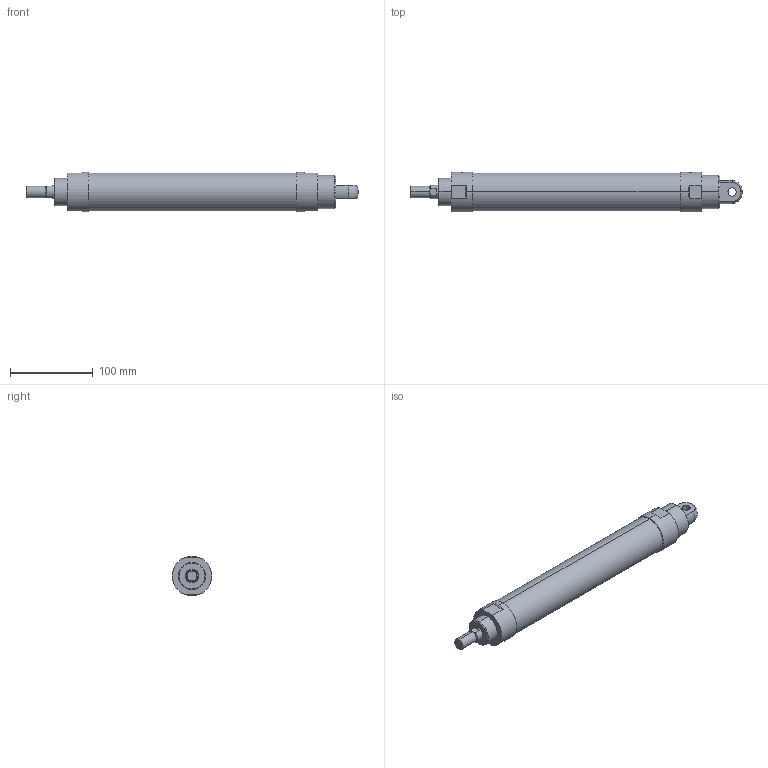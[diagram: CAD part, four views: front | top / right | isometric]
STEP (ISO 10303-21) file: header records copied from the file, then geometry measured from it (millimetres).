
FILE_DESCRIPTION (( 'STEP AP203' ), '1' );
FILE_NAME ('J#2-40-200-C.STEP', '2016-03-08T08:04:10', ( '' ), ( '' ), 'SwSTEP 2.0', 'SolidWorks 2014', '' );
FILE_SCHEMA (( 'CONFIG_CONTROL_DESIGN' ));
Length unit declared in the file: millimetre
Products named in the file (1): J#2-40-200-C
Bounding box: 402 x 48 x 48 mm (x, y, z)
Volume: 563168.9 mm3; surface area: 57147.8 mm2
Topology: 1 solids, 1 shells, 59 faces, 138 edges, 85 vertices
Faces by surface type: cylinder 22, plane 20, cone 15, torus 2
Entity records: 1988 total; most frequent: CARTESIAN_POINT 566, DIRECTION 293, ORIENTED_EDGE 268, EDGE_CURVE 134, AXIS2_PLACEMENT_3D 118, VERTEX_POINT 85, EDGE_LOOP 69, FACE_OUTER_BOUND 59
